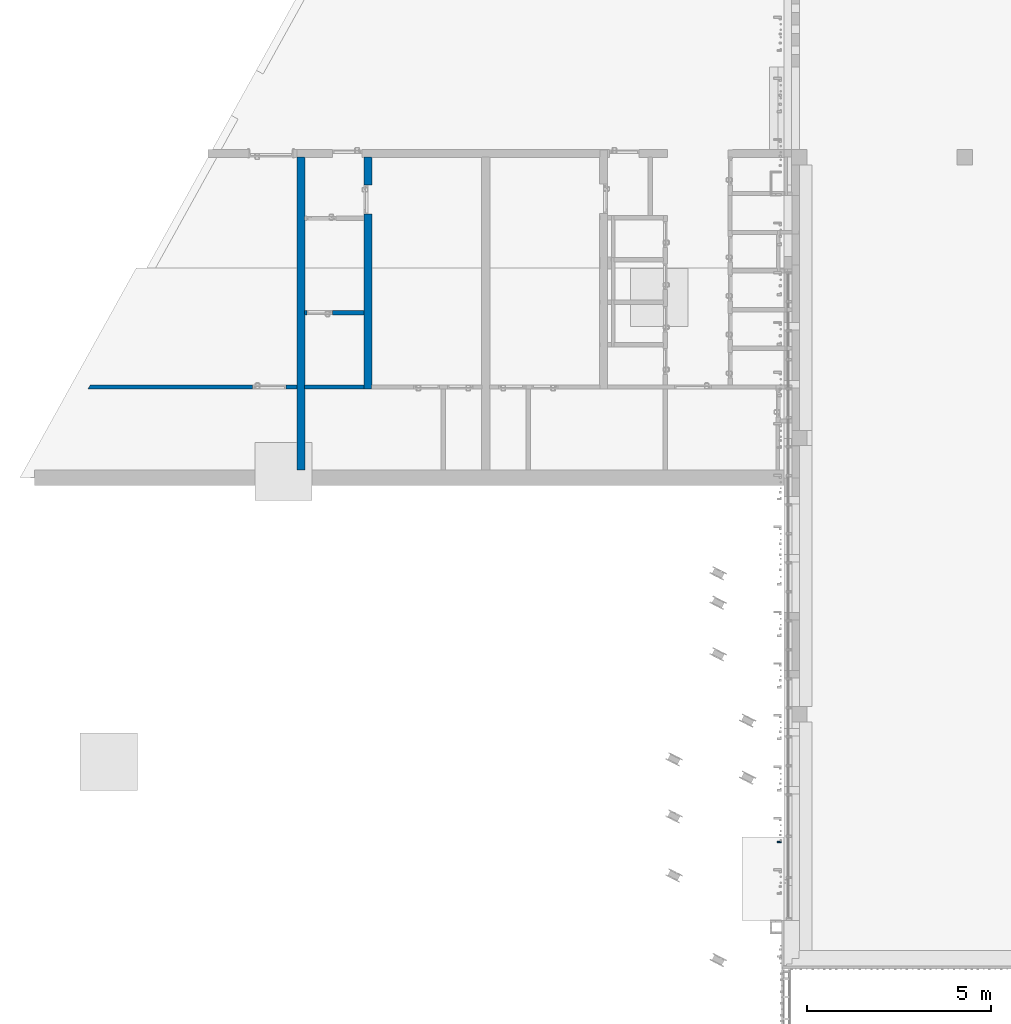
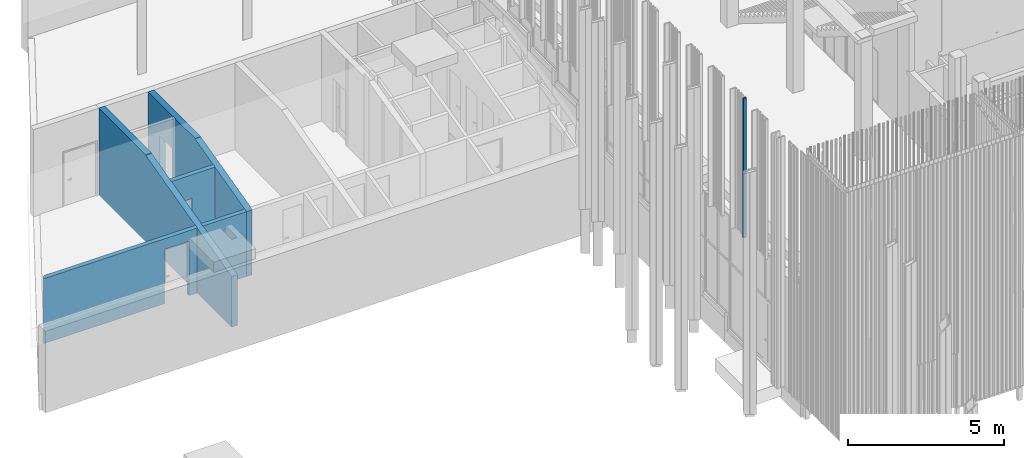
# One storey, part 105 of 390: 6 walls.
"""IFC2X3 building model written with IfcOpenShell, lengths in millimetres."""

from ifc_helpers import new_model, entity, si_unit, converted_unit, derived_unit, money_unit, direction, frame, origin_with_axes, place, context, subcontext, project, spatial, faceted_brep, material, material_list, type_object, element, save


model = new_model("IFC2X3")

# Units and contexts
model_context = context("Model", 3, precision=1e-05, world=origin_with_axes(), true_north=direction((0.0, 1.0)))
body_context = subcontext(model_context, "Body", "Model", "MODEL_VIEW")
ifc_project = project(units=[si_unit("LENGTHUNIT", "METRE", prefix="MILLI"), si_unit("AREAUNIT", "SQUARE_METRE"), si_unit("VOLUMEUNIT", "CUBIC_METRE"), converted_unit("PLANEANGLEUNIT", "DEGREE", entity("IfcPlaneAngleMeasure", 0.0174532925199), si_unit("PLANEANGLEUNIT", "RADIAN"), dimensions=[0, 0, 0, 0, 0, 0, 0]), si_unit("SOLIDANGLEUNIT", "STERADIAN"), money_unit("EUR"), converted_unit("TIMEUNIT", "Year", entity("IfcTimeMeasure", 31556926.0), si_unit("TIMEUNIT", "SECOND"), dimensions=[0, 0, 1, 0, 0, 0, 0]), si_unit("MASSUNIT", "GRAM", prefix="KILO"), si_unit("THERMODYNAMICTEMPERATUREUNIT", "DEGREE_CELSIUS"), si_unit("LUMINOUSINTENSITYUNIT", "LUMEN"), si_unit("ENERGYUNIT", "JOULE", prefix="MEGA"), derived_unit("THERMALCONDUCTANCEUNIT", [(si_unit("POWERUNIT", "WATT"), 1), (si_unit("LENGTHUNIT", "METRE"), -1), (si_unit("THERMODYNAMICTEMPERATUREUNIT", "KELVIN"), -1)]), derived_unit("SPECIFICHEATCAPACITYUNIT", [(si_unit("ENERGYUNIT", "JOULE"), 1), (si_unit("MASSUNIT", "GRAM", prefix="KILO"), -1), (si_unit("THERMODYNAMICTEMPERATUREUNIT", "KELVIN"), -1)]), derived_unit("MASSDENSITYUNIT", [(si_unit("MASSUNIT", "GRAM", prefix="KILO"), 1), (si_unit("VOLUMEUNIT", "CUBIC_METRE"), -1)])], contexts=[model_context])

# Site, building, storey
site_placement = place(None, origin_with_axes())
site = spatial("IfcSite", under=ifc_project, at=site_placement, Name="Site", CompositionType="ELEMENT")
building_placement = place(site_placement, origin_with_axes())
building = spatial("IfcBuilding", under=site, at=building_placement, Name="Building", CompositionType="ELEMENT")
storey_placement = place(building_placement, origin_with_axes())
storey = spatial("IfcBuildingStorey", under=building, at=storey_placement, Name="1 korrus", CompositionType="ELEMENT", Elevation=0.0)

# Walls
ifc_material_1 = material(Name="Krohv - Lubjakivi")
ifc_material_2 = material(Name="Raudbetoon - Konstruktsioon")
ifc_material_list_1 = material_list([ifc_material_1, ifc_material_1, ifc_material_1, ifc_material_1, ifc_material_2, ifc_material_1])
wall_type_1 = type_object("IfcWallType", Name="SS-10", PredefinedType="NOTDEFINED")
wall_1_placement = place(storey_placement, frame((111299.999992, 61000.0000107, -620.0), z_axis=(0.0, 0.0, 1.0), x_axis=(1.40154272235e-10, 1.0, 0.0)))
element("IfcWall", 1, at=wall_1_placement, inside=storey, type_object=wall_type_1, material=ifc_material_list_1, Name="SS-10", context=body_context, shape_type="Brep", body=[
    faceted_brep([(4590.00000019, 220.000000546, 3395.23675944), (4590.00000019, 210.000000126, 3395.23675944), (4590.00000019, 210.000000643, 0.0), (4590.00000019, 220.000000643, 0.0), (3296.31856247, 210.000000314, 3395.23675944), (3296.31856247, 220.000000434, 3395.23675944), (3296.31856301, 210.000000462, 3372.06226561), (2129.99999972, 209.999999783, 3075.85508505), (2129.99999972, 210.000000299, 0.0), (2129.99999971, 220.000000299, 0.0), (2129.99999971, 220.000000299, 3075.85508505), (3296.31856301, 220.000000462, 3372.06226561)], [[[0, 1, 2, 3]], [[4, 1, 0, 5]], [[1, 4, 6, 7, 8, 2]], [[3, 2, 8, 9]], [[5, 0, 3, 9, 10, 11]], [[4, 5, 11, 6]], [[10, 7, 6, 11]], [[8, 7, 10, 9]]]),
    faceted_brep([(6289.99999926, 220.000000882, 3395.23675944), (6289.99999927, 210.000000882, 3395.23675944), (6289.99999927, 210.000000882, 0.0), (6289.99999926, 220.000000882, 0.0), (4690.00000019, 210.000000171, 3395.23675944), (4690.00000019, 220.000000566, 3395.23675944), (4690.00000019, 210.000000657, 0.0), (4750.00000022, 210.000000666, 0.0), (4750.00000019, 210.000000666, 20.0), (4750.00000019, 210.000000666, 2120.0), (5550.00000019, 210.000000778, 2120.0), (5550.00000019, 210.000000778, 20.0), (5550.00000022, 210.000000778, 0.0), (5550.00000022, 220.000000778, 0.0), (5550.00000019, 220.000000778, 20.0), (5550.00000019, 220.000000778, 2120.0), (4750.00000019, 220.000000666, 2120.0), (4750.00000019, 220.000000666, 20.0), (4750.00000022, 220.000000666, 0.0), (4690.00000019, 220.000000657, 0.0)], [[[0, 1, 2, 3]], [[4, 1, 0, 5]], [[1, 4, 6, 7, 8, 9, 10, 11, 12, 2]], [[12, 13, 3, 2]], [[5, 0, 3, 13, 14, 15, 16, 17, 18, 19]], [[4, 5, 19, 6]], [[18, 7, 6, 19]], [[18, 17, 8, 7]], [[16, 9, 8, 17]], [[15, 10, 9, 16]], [[14, 11, 10, 15]], [[12, 11, 14, 13]]]),
    faceted_brep([(9.99999996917, 220.000000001, 2537.44367459), (9.99999997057, 209.999999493, 2537.44367459), (9.99999997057, 210.000000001, 0.0), (9.99999996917, 220.000000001, 0.0), (-1.35541711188e-06, 209.999998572, 2534.90399779), (-6.55589360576e-07, 219.999999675, 2534.90399796), (-4.7666901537e-06, 210.0, 0.0), (-4.76808992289e-06, 220.0, 0.0)], [[[0, 1, 2, 3]], [[4, 1, 0, 5]], [[1, 4, 6, 2]], [[7, 3, 2, 6]], [[5, 0, 3, 7]], [[4, 5, 7, 6]]]),
    faceted_brep([(2029.99999971, 220.000000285, 3050.4583204), (2029.99999972, 209.999999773, 3050.4583204), (2029.99999972, 210.000000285, 0.0), (2029.99999971, 220.000000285, 0.0), (109.999999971, 209.999999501, 2562.84043924), (109.999999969, 220.000000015, 2562.84043924), (109.999999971, 210.000000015, 0.0), (109.999999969, 220.000000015, 0.0)], [[[0, 1, 2, 3]], [[4, 1, 0, 5]], [[1, 4, 6, 2]], [[7, 3, 2, 6]], [[5, 0, 3, 7]], [[4, 5, 7, 6]]]),
    faceted_brep([(6289.99999927, 210.000000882, 3395.23675944), (6289.99999929, 10.0000008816, 3395.23675944), (6299.99999929, 10.000000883, 3395.23675923), (6299.99999927, 210.000000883, 3395.23675923), (3296.31856249, 10.0000005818, 3395.23675944), (3296.31856247, 210.000000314, 3395.23675944), (3296.31856303, 10.000000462, 3372.06226561), (-1.32738620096e-06, 10.0000011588, 2534.90399779), (-4.73865924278e-06, 10.0, 0.0), (4750.00000022, 10.0000006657, 0.0), (4750.00000022, 10.0000006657, 20.0), (4750.00000022, 10.0000006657, 2120.0), (5550.00000022, 10.0000007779, 2120.0), (5550.00000022, 10.0000007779, 20.0), (5550.00000022, 10.0000007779, 0.0), (6299.99999929, 10.000000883, 0.0), (6299.99999927, 210.000000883, 0.0), (5550.00000022, 210.000000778, 0.0), (5550.00000019, 210.000000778, 20.0), (5550.00000019, 210.000000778, 2120.0), (4750.00000019, 210.000000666, 2120.0), (4750.00000019, 210.000000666, 20.0), (4750.00000022, 210.000000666, 0.0), (-4.7666901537e-06, 210.0, 0.0), (-1.35541711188e-06, 209.999998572, 2534.90399779), (3296.31856301, 210.000000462, 3372.06226561)], [[[0, 1, 2, 3]], [[4, 1, 0, 5]], [[1, 4, 6, 7, 8, 9, 10, 11, 12, 13, 14, 15, 2]], [[15, 16, 3, 2]], [[5, 0, 3, 16, 17, 18, 19, 20, 21, 22, 23, 24, 25]], [[4, 5, 25, 6]], [[24, 7, 6, 25]], [[8, 7, 24, 23]], [[23, 22, 9, 8]], [[9, 22, 21, 10]], [[21, 20, 11, 10]], [[20, 19, 12, 11]], [[19, 18, 13, 12]], [[17, 14, 13, 18]], [[15, 14, 17, 16]]]),
    faceted_brep([(6289.99999929, 10.0000008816, 3395.23675944), (6289.9999993, 8.81570372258e-07, 3395.23675944), (6289.9999993, 8.81570372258e-07, 0.0), (6289.99999929, 10.0000008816, 0.0), (3296.31856249, 4.61994886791e-07, 3395.23675944), (3296.31856249, 10.0000005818, 3395.23675944), (3296.31856303, 4.61994886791e-07, 3372.06226561), (109.999999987, 1.5418777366e-08, 2562.84043923), (109.999999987, 1.5418777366e-08, 0.0), (4750.00000022, 6.65735910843e-07, 0.0), (4750.00000022, 6.65735910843e-07, 20.0), (4750.00000022, 6.65735910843e-07, 2120.0), (5550.00000022, 7.77859554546e-07, 2120.0), (5550.00000022, 7.77859554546e-07, 20.0), (5550.00000022, 7.77859554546e-07, 0.0), (5550.00000022, 10.0000007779, 0.0), (5550.00000022, 10.0000007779, 20.0), (5550.00000022, 10.0000007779, 2120.0), (4750.00000022, 10.0000006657, 2120.0), (4750.00000022, 10.0000006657, 20.0), (4750.00000022, 10.0000006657, 0.0), (109.999999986, 10.0000000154, 0.0), (109.999999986, 10.0000000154, 2562.84043923), (3296.31856303, 10.000000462, 3372.06226561)], [[[0, 1, 2, 3]], [[4, 1, 0, 5]], [[1, 4, 6, 7, 8, 9, 10, 11, 12, 13, 14, 2]], [[2, 14, 15, 3]], [[5, 0, 3, 15, 16, 17, 18, 19, 20, 21, 22, 23]], [[4, 5, 23, 6]], [[22, 7, 6, 23]], [[8, 7, 22, 21]], [[21, 20, 9, 8]], [[9, 20, 19, 10]], [[19, 18, 11, 10]], [[18, 17, 12, 11]], [[17, 16, 13, 12]], [[15, 14, 13, 16]]]),
])
ifc_material_list_2 = material_list([ifc_material_1, ifc_material_1, ifc_material_2, ifc_material_1, ifc_material_1, ifc_material_1, ifc_material_1])
wall_2_placement = place(storey_placement, frame((109479.999992, 58800.0000094, -620.0), z_axis=(0.0, 0.0, 1.0), x_axis=(0.0, 1.0, 0.0)))
element("IfcWall", 2, at=wall_2_placement, inside=storey, type_object=wall_type_1, material=ifc_material_list_2, Name="SS-10", context=body_context, shape_type="Brep", body=[
    faceted_brep([(8490.00000058, 219.999999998, 3395.23675944), (8490.00000058, 210.0, 3395.23675944), (8490.00000058, 210.0, 0.0), (8490.00000058, 219.999999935, 0.0), (5496.31856388, 210.0, 3395.23675944), (5496.31856388, 219.999999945, 3395.23675944), (5496.31856442, 210.0, 3372.06226563), (2310.00000129, 210.0, 2562.84043924), (2310.00000129, 210.0, 0.0), (2310.00000129, 220.0, 0.0), (2310.00000129, 220.0, 2562.84043924), (5496.31856442, 219.999999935, 3372.06226563)], [[[0, 1, 2, 3]], [[4, 1, 0, 5]], [[1, 4, 6, 7, 8, 2]], [[2, 8, 9, 3]], [[5, 0, 3, 9, 10, 11]], [[4, 5, 11, 6]], [[10, 7, 6, 11]], [[8, 7, 10, 9]]]),
    faceted_brep([(2210.00000129, 220.0, 2537.44367459), (2210.00000129, 210.0, 2537.44367459), (2210.00000129, 210.0, 0.0), (2210.00000129, 220.0, 0.0), (0.0, 210.0, 1976.17517555), (0.0, 220.0, 1976.17517555), (0.0, 210.0, 0.0), (0.0, 220.0, 0.0)], [[[0, 1, 2, 3]], [[4, 1, 0, 5]], [[1, 4, 6, 2]], [[6, 7, 3, 2]], [[5, 0, 3, 7]], [[4, 5, 7, 6]]]),
    faceted_brep([(8490.00000058, 210.0, 3395.23675944), (8490.00000058, 10.0, 3395.23675944), (8500.00000058, 10.0, 3395.23675923), (8500.00000058, 210.0, 3395.23675923), (5496.31856387, 10.0, 3395.23675944), (5496.31856388, 210.0, 3395.23675944), (5496.31856441, 10.0, 3372.06226563), (0.0, 10.0, 1976.17517555), (0.0, 10.0, 0.0), (8500.00000058, 10.0, 0.0), (8500.00000058, 210.0, 0.0), (0.0, 210.0, 0.0), (0.0, 210.0, 1976.17517555), (5496.31856442, 210.0, 3372.06226563)], [[[0, 1, 2, 3]], [[4, 1, 0, 5]], [[1, 4, 6, 7, 8, 9, 2]], [[9, 10, 3, 2]], [[5, 0, 3, 10, 11, 12, 13]], [[4, 5, 13, 6]], [[12, 7, 6, 13]], [[8, 7, 12, 11]], [[8, 11, 10, 9]]]),
    faceted_brep([(6790.00000151, 10.0, 3395.23675944), (6790.00000151, 0.0, 3395.23675944), (6790.00000151, 0.0, 0.0), (6790.00000151, 10.0, 0.0), (5496.31856387, 0.0, 3395.23675944), (5496.31856387, 10.0, 3395.23675944), (5496.31856441, 0.0, 3372.06226563), (4330.00000103, 0.0, 3075.85508505), (4330.00000103, 0.0, 0.0), (4330.00000103, 10.0, 0.0), (4330.00000103, 10.0, 3075.85508505), (5496.31856441, 10.0, 3372.06226563)], [[[0, 1, 2, 3]], [[4, 1, 0, 5]], [[1, 4, 6, 7, 8, 2]], [[9, 3, 2, 8]], [[5, 0, 3, 9, 10, 11]], [[4, 5, 11, 6]], [[10, 7, 6, 11]], [[8, 7, 10, 9]]]),
    faceted_brep([(8490.00000058, 10.0, 3395.23675944), (8490.00000058, 0.0, 3395.23675944), (8490.00000058, 0.0, 0.0), (8490.00000058, 10.0, 0.0), (6890.00000151, 0.0, 3395.23675944), (6890.00000151, 10.0, 3395.23675944), (6890.00000151, 0.0, 0.0), (6890.00000151, 10.0, 0.0)], [[[0, 1, 2, 3]], [[4, 1, 0, 5]], [[1, 4, 6, 2]], [[7, 3, 2, 6]], [[5, 0, 3, 7]], [[4, 5, 7, 6]]]),
    faceted_brep([(2210.00000129, 10.0, 2537.44367459), (2210.00000129, 0.0, 2537.44367459), (2210.00000129, 0.0, 0.0), (2210.00000129, 10.0, 0.0), (0.0, 0.0, 1976.17517555), (0.0, 10.0, 1976.17517555), (0.0, 0.0, 0.0), (0.0, 10.0, 0.0)], [[[0, 1, 2, 3]], [[4, 1, 0, 5]], [[1, 4, 6, 2]], [[6, 7, 3, 2]], [[5, 0, 3, 7]], [[4, 5, 7, 6]]]),
    faceted_brep([(4230.00000103, 10.0, 3050.4583204), (4230.00000103, 0.0, 3050.4583204), (4230.00000103, 0.0, 0.0), (4230.00000103, 10.0, 0.0), (2310.00000129, 0.0, 2562.84043924), (2310.00000129, 10.0, 2562.84043924), (2310.00000129, 0.0, 0.0), (2310.00000129, 10.0, 0.0)], [[[0, 1, 2, 3]], [[4, 1, 0, 5]], [[1, 4, 6, 2]], [[6, 7, 3, 2]], [[5, 0, 3, 7]], [[4, 5, 7, 6]]]),
])
ifc_material_3 = material(Name="Site specified")
wall_type_2 = type_object("IfcWallType", Name="Puitfassaadi ribistik", PredefinedType="NOTDEFINED")
wall_3_placement = place(storey_placement, frame((122358.499997, 48708.0000095, 4424.99966101), z_axis=(0.0, 0.0, 1.0), x_axis=(0.0, 1.0, 0.0)))
element("IfcWall", 3, at=wall_3_placement, inside=storey, type_object=wall_type_2, material=ifc_material_3, Name="Site specified", context=body_context, shape_type="Brep", body=[
    faceted_brep([(25.0, 54.5, 5440.00033899), (25.0, 54.5, 0.0), (-25.0, 54.5, 0.0), (-25.0, 54.5, 5440.00033899), (25.0, -54.5, 5440.00033899), (25.0, -54.5, 0.0), (-25.0, -54.5, 0.0), (-25.0, -54.5, 5440.00033899)], [[[0, 1, 2, 3]], [[4, 5, 1, 0]], [[2, 1, 5, 6]], [[3, 2, 6, 7]], [[4, 0, 3, 7]], [[7, 6, 5, 4]]]),
])
ifc_material_4 = material(Name="Müüriplokk - Konstuktsioon")
ifc_material_list_3 = material_list([ifc_material_1, ifc_material_4, ifc_material_1])
wall_type_3 = type_object("IfcWallType", Name="SS-07", PredefinedType="NOTDEFINED")
wall_4_placement = place(storey_placement, frame((111299.999992, 61120.0000107, -620.0), z_axis=(0.0, 0.0, 1.0), x_axis=(-1.0, 0.0, 0.0)))
element("IfcWall", 4, at=wall_4_placement, inside=storey, type_object=wall_type_3, material=ifc_material_list_3, Name="SS-07", context=body_context, shape_type="Brep", body=[
    faceted_brep([(1820.00000044, 110.0, 2537.44367459), (220.000000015, 110.0, 2537.44367459), (220.000000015, 110.0, 0.0), (1820.00000044, 110.0, 0.0), (220.000000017, 120.0, 2534.90399812), (1820.00000044, 120.0, 2534.90399812), (220.000000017, 120.0, 0.0), (1820.00000044, 120.0, 0.0)], [[[0, 1, 2, 3]], [[4, 1, 0, 5]], [[1, 4, 6, 2]], [[6, 7, 3, 2]], [[5, 0, 3, 7]], [[4, 5, 7, 6]]]),
    faceted_brep([(1830.00000044, 10.0, 2562.84043924), (210.000000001, 10.0, 2562.84043924), (210.000000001, 10.0, 0.0), (1830.00000044, 10.0, 0.0), (210.000000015, 110.0, 2537.44367459), (1830.00000044, 110.0, 2537.44367459), (210.000000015, 110.0, 0.0), (1830.00000044, 110.0, 0.0)], [[[0, 1, 2, 3]], [[4, 1, 0, 5]], [[1, 4, 6, 2]], [[6, 7, 3, 2]], [[5, 0, 3, 7]], [[4, 5, 7, 6]]]),
    faceted_brep([(1820.00000044, 0.0, 2565.3801157), (220.0, 0.0, 2565.3801157), (220.0, 0.0, 0.0), (1820.00000044, 0.0, 0.0), (220.000000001, 10.0, 2562.84043924), (1820.00000044, 10.0, 2562.84043924), (220.000000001, 10.0, 0.0), (1820.00000044, 10.0, 0.0)], [[[0, 1, 2, 3]], [[4, 1, 0, 5]], [[1, 4, 6, 2]], [[6, 7, 3, 2]], [[5, 0, 3, 7]], [[4, 5, 7, 6]]]),
])
wall_5_placement = place(storey_placement, frame((109479.999992, 61120.0000107, -620.0), z_axis=(0.0, 0.0, 1.0), x_axis=(-1.0, 0.0, 0.0)))
element("IfcWall", 5, at=wall_5_placement, inside=storey, type_object=wall_type_3, material=ifc_material_list_3, Name="SS-07", context=body_context, shape_type="Brep", body=[
    faceted_brep([(5873.54417951, 110.0, 2537.44367459), (220.0, 110.0, 2537.44367459), (220.0, 110.0, 0.0), (520.0, 110.0, 0.0), (520.0, 110.0, 20.0), (520.0, 110.0, 2120.0), (1420.0, 110.0, 2120.0), (1420.0, 110.0, 20.0), (1420.0, 110.0, 0.0), (5873.54417951, 110.0, 0.0), (220.0, 120.0, 2534.90399812), (5879.08727002, 120.0, 2534.90399812), (220.0, 120.0, 0.0), (520.0, 120.0, 0.0), (520.0, 120.0, 20.0), (520.0, 120.0, 2120.0), (1420.0, 120.0, 2120.0), (1420.0, 120.0, 20.0), (1420.0, 120.0, 0.0), (5879.08727002, 120.0, 0.0)], [[[0, 1, 2, 3, 4, 5, 6, 7, 8, 9]], [[10, 1, 0, 11]], [[1, 10, 12, 2]], [[13, 3, 2, 12]], [[13, 14, 4, 3]], [[15, 5, 4, 14]], [[16, 6, 5, 15]], [[17, 7, 6, 16]], [[8, 7, 17, 18]], [[8, 18, 19, 9]], [[11, 0, 9, 19]], [[10, 11, 19, 18, 17, 16, 15, 14, 13, 12]]]),
    faceted_brep([(5829.54681512, 9.99999999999, 2562.84043924), (210.0, 10.0, 2562.84043924), (210.0, 10.0, 0.0), (520.0, 10.0, 0.0), (520.0, 10.0, 20.0), (520.0, 10.0, 2120.0), (1420.0, 10.0, 2120.0), (1420.0, 10.0, 20.0), (1420.0, 10.0, 0.0), (5829.54681512, 9.99999999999, 0.0), (210.0, 110.0, 2537.44367459), (5884.97772019, 110.0, 2537.44367459), (210.0, 110.0, 0.0), (520.0, 110.0, 0.0), (520.0, 110.0, 20.0), (520.0, 110.0, 2120.0), (1420.0, 110.0, 2120.0), (1420.0, 110.0, 20.0), (1420.0, 110.0, 0.0), (5884.97772019, 110.0, 0.0)], [[[0, 1, 2, 3, 4, 5, 6, 7, 8, 9]], [[10, 1, 0, 11]], [[1, 10, 12, 2]], [[13, 3, 2, 12]], [[13, 14, 4, 3]], [[15, 5, 4, 14]], [[16, 6, 5, 15]], [[17, 7, 6, 16]], [[8, 7, 17, 18]], [[8, 18, 19, 9]], [[11, 0, 9, 19]], [[10, 11, 19, 18, 17, 16, 15, 14, 13, 12]]]),
    faceted_brep([(5812.57018394, 0.0, 2565.3801157), (220.0, 0.0, 2565.3801157), (220.0, 0.0, 0.0), (520.0, 0.0, 0.0), (520.0, 0.0, 20.0), (520.0, 0.0, 2120.0), (1420.0, 0.0, 2120.0), (1420.0, 0.0, 20.0), (1420.0, 0.0, 0.0), (5812.57018394, 0.0, 0.0), (220.0, 10.0, 2562.84043924), (5818.11327445, 9.99999999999, 2562.84043924), (220.0, 10.0, 0.0), (520.0, 10.0, 0.0), (520.0, 10.0, 20.0), (520.0, 10.0, 2120.0), (1420.0, 10.0, 2120.0), (1420.0, 10.0, 20.0), (1420.0, 10.0, 0.0), (5818.11327445, 9.99999999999, 0.0)], [[[0, 1, 2, 3, 4, 5, 6, 7, 8, 9]], [[10, 1, 0, 11]], [[1, 10, 12, 2]], [[13, 3, 2, 12]], [[13, 14, 4, 3]], [[15, 5, 4, 14]], [[16, 6, 5, 15]], [[17, 7, 6, 16]], [[8, 7, 17, 18]], [[8, 18, 19, 9]], [[11, 0, 9, 19]], [[10, 11, 19, 18, 17, 16, 15, 14, 13, 12]]]),
])
wall_6_placement = place(storey_placement, frame((111299.999993, 63020.0000105, -620.0), z_axis=(0.0, 0.0, 1.0), x_axis=(-1.0, 1.40136986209e-10, 0.0)))
element("IfcWall", 6, at=wall_6_placement, inside=storey, type_object=wall_type_3, material=ifc_material_list_3, Name="SS-07", context=body_context, shape_type="Brep", body=[
    faceted_brep([(1820.00000071, -9.99999974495, 3050.4583204), (220.0, -9.99999996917, 3050.4583204), (220.0, -9.99999996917, 0.0), (1070.00000074, -9.99999985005, 0.0), (1070.00000072, -9.99999985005, 20.0), (1070.00000072, -9.99999985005, 2120.0), (1770.00000072, -9.99999975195, 2120.0), (1770.00000072, -9.99999975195, 20.0), (1770.00000074, -9.99999975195, 0.0), (1820.00000071, -9.99999974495, 0.0), (220.0, 3.08304493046e-08, 3047.91864394), (1820.00000071, 2.55049315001e-07, 3047.91864394), (220.0, 3.08304493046e-08, 0.0), (1070.00000074, 1.49945833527e-07, 0.0), (1070.00000072, 1.49945833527e-07, 20.0), (1070.00000072, 1.49945833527e-07, 2120.0), (1770.00000072, 2.48043363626e-07, 2120.0), (1770.00000072, 2.48043363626e-07, 20.0), (1770.00000074, 2.48043363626e-07, 0.0), (1820.00000071, 2.55049315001e-07, 0.0)], [[[0, 1, 2, 3, 4, 5, 6, 7, 8, 9]], [[10, 1, 0, 11]], [[1, 10, 12, 2]], [[13, 3, 2, 12]], [[13, 14, 4, 3]], [[15, 5, 4, 14]], [[16, 6, 5, 15]], [[17, 7, 6, 16]], [[8, 7, 17, 18]], [[8, 18, 19, 9]], [[11, 0, 9, 19]], [[10, 11, 19, 18, 17, 16, 15, 14, 13, 12]]]),
    faceted_brep([(1830.00000072, -109.999999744, 3075.85508505), (210.0, -109.999999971, 3075.85508505), (210.0, -109.999999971, 0.0), (1070.00000074, -109.99999985, 0.0), (1070.00000073, -109.99999985, 20.0), (1070.00000073, -109.99999985, 2120.0), (1770.00000073, -109.999999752, 2120.0), (1770.00000073, -109.999999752, 20.0), (1770.00000074, -109.999999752, 0.0), (1830.00000072, -109.999999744, 0.0), (210.0, -9.99999997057, 3050.4583204), (1830.00000071, -9.99999974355, 3050.4583204), (210.0, -9.99999997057, 0.0), (1070.00000074, -9.99999985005, 0.0), (1070.00000072, -9.99999985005, 20.0), (1070.00000072, -9.99999985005, 2120.0), (1770.00000072, -9.99999975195, 2120.0), (1770.00000072, -9.99999975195, 20.0), (1770.00000074, -9.99999975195, 0.0), (1830.00000071, -9.99999974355, 0.0)], [[[0, 1, 2, 3, 4, 5, 6, 7, 8, 9]], [[10, 1, 0, 11]], [[1, 10, 12, 2]], [[13, 3, 2, 12]], [[13, 14, 4, 3]], [[15, 5, 4, 14]], [[16, 6, 5, 15]], [[17, 7, 6, 16]], [[8, 7, 17, 18]], [[8, 18, 19, 9]], [[11, 0, 9, 19]], [[10, 11, 19, 18, 17, 16, 15, 14, 13, 12]]]),
    faceted_brep([(1820.00000072, -119.999999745, 3078.39476151), (220.0, -119.999999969, 3078.39476151), (220.0, -119.999999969, 0.0), (1070.00000074, -119.99999985, 0.0), (1070.00000074, -119.99999985, 20.0), (1070.00000074, -119.99999985, 2120.0), (1770.00000074, -119.999999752, 2120.0), (1770.00000074, -119.999999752, 20.0), (1770.00000074, -119.999999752, 0.0), (1820.00000072, -119.999999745, 0.0), (220.0, -109.999999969, 3075.85508505), (1820.00000072, -109.999999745, 3075.85508505), (220.0, -109.999999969, 0.0), (1070.00000074, -109.99999985, 0.0), (1070.00000073, -109.99999985, 20.0), (1070.00000073, -109.99999985, 2120.0), (1770.00000073, -109.999999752, 2120.0), (1770.00000073, -109.999999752, 20.0), (1770.00000074, -109.999999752, 0.0), (1820.00000072, -109.999999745, 0.0)], [[[0, 1, 2, 3, 4, 5, 6, 7, 8, 9]], [[10, 1, 0, 11]], [[1, 10, 12, 2]], [[13, 3, 2, 12]], [[13, 14, 4, 3]], [[15, 5, 4, 14]], [[16, 6, 5, 15]], [[17, 7, 6, 16]], [[8, 7, 17, 18]], [[8, 18, 19, 9]], [[11, 0, 9, 19]], [[10, 11, 19, 18, 17, 16, 15, 14, 13, 12]]]),
])

save(model, "model.ifc")
